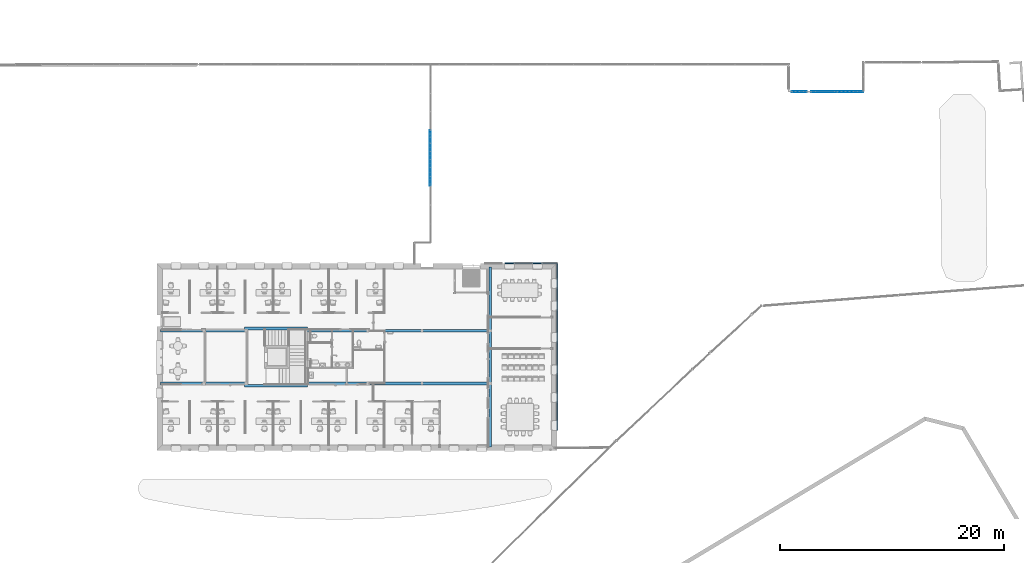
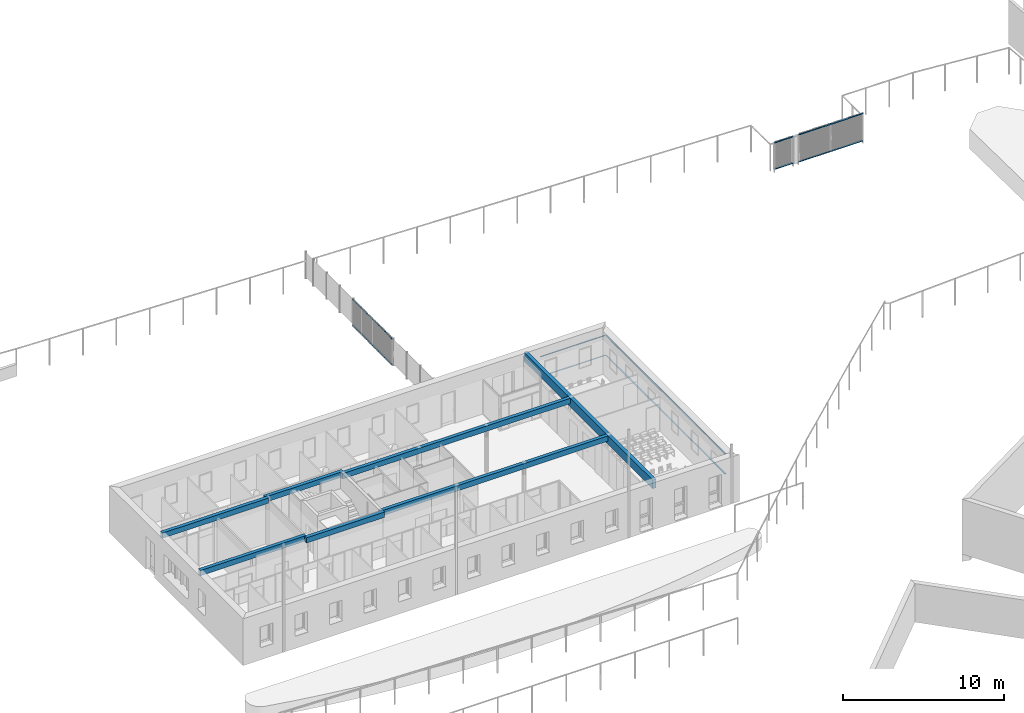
# One storey, part 8 of 91: 19 beams.
"""IFC2X3 building model written with IfcOpenShell, lengths in metres."""

import ifcopenshell
import ifcopenshell.guid

model = None  # the IFC model being written
_history = None  # IfcOwnerHistory: only IFC2X3 demands one
_inside = {}  # id of a spatial element -> (the spatial element, [elements in it])
_under = {}  # id of a project, library or spatial element -> (it, [spatial elements below it])
_declared = {}  # id of a project -> (the project, [libraries it declares])
_typed = {}  # id of a type object -> (the type object, [elements of that type])
_made_of = {}  # id of a material, layer set ... -> (it, [elements and type objects made of it])


def new_model(schema):
    """Start an empty IFC model of exactly this schema.

    Asked for "IFC4X3", IfcOpenShell would pick the latest addendum, in which some entities
    have other attributes; the version numbers below select the first issue.
    IFC2X3 requires an IfcOwnerHistory on every rooted entity: one is made here for all.
    """
    global model, _history
    if schema == "IFC4X3":
        model = ifcopenshell.file(schema_version=(4, 3, 0, 0))
    else:
        model = ifcopenshell.file(schema=schema)
    _inside.clear()
    _under.clear()
    _declared.clear()
    _typed.clear()
    _made_of.clear()
    _history = None
    if model.schema == "IFC2X3":
        org = make("IfcOrganization", Name="unknown")
        user = make(
            "IfcPersonAndOrganization",
            ThePerson=make("IfcPerson", FamilyName="unknown"),
            TheOrganization=org,
        )
        app = make(
            "IfcApplication",
            ApplicationDeveloper=org,
            Version="unknown",
            ApplicationFullName="unknown",
            ApplicationIdentifier="unknown",
        )
        _history = make(
            "IfcOwnerHistory",
            OwningUser=user,
            OwningApplication=app,
            ChangeAction="ADDED",
            CreationDate=0,
        )
    return model


def make(cls, **values):
    """One entity of the class cls with the attributes given. An attribute that is None is left unset."""
    return model.create_entity(
        cls, **{name: value for name, value in values.items() if value is not None}
    )


def entity(cls, *values):
    """Any entity or typed value of the class cls, its attributes in the order of the schema. None: left unset."""
    e = model.create_entity(cls)
    for i, value in enumerate(values):
        if value is not None:
            e[i] = value
    return e


def rooted(cls, **values):
    """An entity with a GlobalId (a new one), such as an element, a storey or a relation."""
    return make(cls, GlobalId=ifcopenshell.guid.new(), OwnerHistory=_history, **values)


def si_unit(unit_type, name, prefix=None):
    """IfcSIUnit, for example si_unit("LENGTHUNIT", "METRE", prefix="MILLI")."""
    return make("IfcSIUnit", UnitType=unit_type, Prefix=prefix, Name=name)


def converted_unit(unit_type, name, factor, base, dimensions=None, offset=None):
    """IfcConversionBasedUnit, such as the inch: factor (a typed value) times the base unit."""
    return make(
        "IfcConversionBasedUnit"
        if offset is None
        else "IfcConversionBasedUnitWithOffset",
        ConversionOffset=offset,
        Dimensions=None
        if dimensions is None
        else entity("IfcDimensionalExponents", *dimensions),
        UnitType=unit_type,
        Name=name,
        ConversionFactor=make(
            "IfcMeasureWithUnit", ValueComponent=factor, UnitComponent=base
        ),
    )


def derived_unit(unit_type, elements):
    """IfcDerivedUnit: a product of units, each with its exponent."""
    return make(
        "IfcDerivedUnit",
        Elements=[
            make("IfcDerivedUnitElement", Unit=unit, Exponent=power)
            for unit, power in elements
        ],
        UnitType=unit_type,
    )


def money_unit(currency):
    """IfcMonetaryUnit."""
    return make("IfcMonetaryUnit", Currency=currency)


def assignment(units):
    """IfcUnitAssignment: the units of a project."""
    return None if units is None else make("IfcUnitAssignment", Units=units)


def point(xyz):
    """IfcCartesianPoint."""
    return None if xyz is None else make("IfcCartesianPoint", Coordinates=xyz)


def direction(xyz):
    """IfcDirection."""
    return None if xyz is None else make("IfcDirection", DirectionRatios=xyz)


def frame(location, z_axis=None, x_axis=None):
    """IfcAxis2Placement3D, a coordinate frame: its origin and axes. An axis left out is left unset."""
    return make(
        "IfcAxis2Placement3D",
        Location=point(location),
        Axis=direction(z_axis),
        RefDirection=direction(x_axis),
    )


def frame_2d(location, x_axis=None):
    """IfcAxis2Placement2D, a coordinate frame in the plane: its origin and x axis."""
    return make(
        "IfcAxis2Placement2D", Location=point(location), RefDirection=direction(x_axis)
    )


def origin_with_axes():
    """The frame at (0, 0, 0) with the z axis (0, 0, 1) and the x axis (1, 0, 0) written out."""
    return frame((0.0, 0.0, 0.0), z_axis=(0.0, 0.0, 1.0), x_axis=(1.0, 0.0, 0.0))


def origin_2d_with_axis():
    """The frame at (0, 0) in the plane with the x axis (1, 0) written out."""
    return frame_2d((0.0, 0.0), x_axis=(1.0, 0.0))


def place(relative_to, where):
    """IfcLocalPlacement: puts the frame where relative to a parent placement (None: the world)."""
    return make(
        "IfcLocalPlacement", PlacementRelTo=relative_to, RelativePlacement=where
    )


def context(
    kind, dimensions, precision=None, world=None, true_north=None, identifier=None
):
    """IfcGeometricRepresentationContext, for example the 3D "Model" context."""
    return make(
        "IfcGeometricRepresentationContext",
        ContextIdentifier=identifier,
        ContextType=kind,
        CoordinateSpaceDimension=dimensions,
        Precision=precision,
        WorldCoordinateSystem=world,
        TrueNorth=true_north,
    )


def subcontext(parent, identifier, kind, view, scale=None):
    """IfcGeometricRepresentationSubContext, for example "Body" below "Model"."""
    return make(
        "IfcGeometricRepresentationSubContext",
        ContextIdentifier=identifier,
        ContextType=kind,
        ParentContext=parent,
        TargetScale=scale,
        TargetView=view,
    )


def project(units=None, contexts=None):
    """IfcProject with its units and contexts."""
    return rooted(
        "IfcProject",
        Name="project",
        RepresentationContexts=contexts,
        UnitsInContext=assignment(units),
    )


def spatial(cls, under=None, at=None, **own):
    """A site, building, storey or space (cls), placed at a placement, below another one or the project."""
    s = rooted(cls, ObjectPlacement=at, **own)
    if under is not None:
        _under.setdefault(under.id(), (under, []))[1].append(s)
    return s


def profile(cls, at=None, kind="AREA", **sizes):
    """A parametric profile (cls). Its sizes go by their IFC names, for example OverallWidth=200.0."""
    return make(cls, ProfileType=kind, Position=at, **sizes)


def rectangle(**sizes):
    """IfcRectangleProfileDef."""
    return profile("IfcRectangleProfileDef", **sizes)


def extrude(swept, where, along, depth):
    """IfcExtrudedAreaSolid: the profile swept, set in the frame where, extruded along a direction by depth."""
    return make(
        "IfcExtrudedAreaSolid",
        SweptArea=swept,
        Position=where,
        ExtrudedDirection=direction(along),
        Depth=depth,
    )


def shape(context_of_items, identifier, shape_type, items):
    """IfcShapeRepresentation: the items that make up one representation, for example the "Body"."""
    return make(
        "IfcShapeRepresentation",
        ContextOfItems=context_of_items,
        RepresentationIdentifier=identifier,
        RepresentationType=shape_type,
        Items=items,
    )


def material(Name=None, Category=None):
    """IfcMaterial."""
    return make("IfcMaterial", Name=Name, Category=Category)


def made_of(thing, what):
    """Note that an element or type object is made of a material, layer set ...; save() writes the relation."""
    if what is not None:
        _made_of.setdefault(what.id(), (what, []))[1].append(thing)
    return thing


def type_object(cls, material=None, **own):
    """A type object (cls), such as IfcWallType, which elements share."""
    return made_of(rooted(cls, **own), material)


def element(
    cls,
    number,
    at=None,
    inside=None,
    cuts=None,
    type_object=None,
    material=None,
    context=None,
    identifier="Body",
    shape_type=None,
    held_by="IfcProductDefinitionShape",
    body=None,
    shapes=None,
    **own,
):
    """One element of the class cls, such as IfcWall. Its Tag is "e" and its number.

    at: its placement. inside: the storey or other place that contains it. cuts: it is an
    opening in that element (IfcRelVoidsElement). A single representation is given by context,
    identifier, shape_type and body (its items); several are given by shapes. held_by: the class
    of the entity that holds the representations. save() writes the other relations.
    """
    e = rooted(cls, Tag="e%d" % number, ObjectPlacement=at, **own)
    if body is not None:
        shapes = [shape(context, identifier, shape_type, body)]
    if shapes is not None:
        e.Representation = make(held_by, Representations=shapes)
    if inside is not None:
        _inside.setdefault(inside.id(), (inside, []))[1].append(e)
    if cuts is not None:
        rooted(
            "IfcRelVoidsElement", RelatingBuildingElement=cuts, RelatedOpeningElement=e
        )
    if type_object is not None:
        _typed.setdefault(type_object.id(), (type_object, []))[1].append(e)
    return made_of(e, material)


def aggregate(whole, parts):
    """IfcRelAggregates: a whole, such as a stair, and the parts it consists of."""
    return rooted("IfcRelAggregates", RelatingObject=whole, RelatedObjects=parts)


def save(model, path):
    """Write the relations noted so far, then the file.

    IfcRelAggregates (storeys below a building ...), IfcRelContainedInSpatialStructure (elements
    in a storey), IfcRelDefinesByType, IfcRelAssociatesMaterial and IfcRelDeclares: one each for
    every whole, place, type object, material and project.
    """
    for whole, parts in _under.values():
        aggregate(whole, parts)
    for where, things in _inside.values():
        rooted(
            "IfcRelContainedInSpatialStructure",
            RelatedElements=things,
            RelatingStructure=where,
        )
    for kind, things in _typed.values():
        rooted("IfcRelDefinesByType", RelatedObjects=things, RelatingType=kind)
    for what, things in _made_of.values():
        rooted("IfcRelAssociatesMaterial", RelatedObjects=things, RelatingMaterial=what)
    for by, libraries in _declared.values():
        rooted("IfcRelDeclares", RelatingContext=by, RelatedDefinitions=libraries)
    model.write(path)


model = new_model("IFC2X3")

# Units and contexts
model_context = context("Model", 3, precision=1e-05, world=origin_with_axes(), true_north=direction((0.0, 1.0)))
body_context = subcontext(model_context, "Body", "Model", "MODEL_VIEW")
ifc_project = project(units=[si_unit("LENGTHUNIT", "METRE"), si_unit("AREAUNIT", "SQUARE_METRE"), si_unit("VOLUMEUNIT", "CUBIC_METRE"), converted_unit("PLANEANGLEUNIT", "DEGREE", entity("IfcPlaneAngleMeasure", 0.0174532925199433), si_unit("PLANEANGLEUNIT", "RADIAN"), dimensions=[0, 0, 0, 0, 0, 0, 0]), money_unit("EUR"), converted_unit("TIMEUNIT", "Year", entity("IfcTimeMeasure", 31557600.0), si_unit("TIMEUNIT", "SECOND"), dimensions=[0, 0, 1, 0, 0, 0, 0]), si_unit("MASSUNIT", "GRAM", prefix="KILO"), si_unit("THERMODYNAMICTEMPERATUREUNIT", "DEGREE_CELSIUS"), si_unit("LUMINOUSINTENSITYUNIT", "LUMEN"), si_unit("ENERGYUNIT", "JOULE", prefix="MEGA"), derived_unit("THERMALCONDUCTANCEUNIT", [(si_unit("POWERUNIT", "WATT"), 1), (si_unit("LENGTHUNIT", "METRE"), -1), (si_unit("THERMODYNAMICTEMPERATUREUNIT", "KELVIN"), -1)]), derived_unit("SPECIFICHEATCAPACITYUNIT", [(si_unit("ENERGYUNIT", "JOULE"), 1), (si_unit("MASSUNIT", "GRAM", prefix="KILO"), -1), (si_unit("THERMODYNAMICTEMPERATUREUNIT", "KELVIN"), -1)]), derived_unit("MASSDENSITYUNIT", [(si_unit("MASSUNIT", "GRAM", prefix="KILO"), 1), (si_unit("VOLUMEUNIT", "CUBIC_METRE"), -1)])], contexts=[model_context])

# Site, building, storey
site_placement = place(None, origin_with_axes())
site = spatial("IfcSite", under=ifc_project, at=site_placement, Name="Site", CompositionType="ELEMENT")
building_placement = place(site_placement, origin_with_axes())
building = spatial("IfcBuilding", under=site, at=building_placement, Name="Bâtiment", CompositionType="ELEMENT")
storey_placement = place(building_placement, origin_with_axes())
storey = spatial("IfcBuildingStorey", under=building, at=storey_placement, Name="RDC", CompositionType="ELEMENT", Elevation=0.0)

# Beams
ifc_material_1 = material(Name="Béton")
beam_type_1 = type_object("IfcBeamType", Name="Béton 250 x 400", PredefinedType="NOTDEFINED")
beam_1_placement = place(storey_placement, frame((24.93199368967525, -21.45756464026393, 3.36), z_axis=(0.0, 0.0, 1.0), x_axis=(0.0, -1.0, 0.0)))
element("IfcBeam", 1, at=beam_1_placement, inside=storey, type_object=beam_type_1, material=ifc_material_1, Name="PoBA-006", context=body_context, shape_type="SweptSolid", body=[
    extrude(rectangle(XDim=0.4, YDim=0.25, at=origin_2d_with_axis()), frame((0.0, 0.0, 0.0), z_axis=(0.0, 1.0, 0.0), x_axis=(0.0, 0.0, 1.0)), (0.0, 0.0, 1.0), 7.621014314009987),
])
beam_2_placement = place(storey_placement, frame((24.93200011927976, -16.7575645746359, 3.36), z_axis=(0.0, 0.0, 1.0), x_axis=(0.0, -1.0, 0.0)))
element("IfcBeam", 2, at=beam_2_placement, inside=storey, type_object=beam_type_1, material=ifc_material_1, Name="PoBA-006", context=body_context, shape_type="SweptSolid", body=[
    extrude(rectangle(XDim=0.4, YDim=0.25, at=origin_2d_with_axis()), frame((0.0, 0.0, 0.0), z_axis=(0.0, 1.0, 0.0), x_axis=(0.0, 0.0, 1.0)), (0.0, 0.0, 1.0), 7.621007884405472),
])
beam_3_placement = place(storey_placement, frame((32.42800800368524, -16.55356458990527, 3.34), z_axis=(0.0, 0.0, 1.0), x_axis=(0.0, -1.0, 0.0)))
element("IfcBeam", 3, at=beam_3_placement, inside=storey, type_object=beam_type_1, material=ifc_material_1, Name="PoBA-006", context=body_context, shape_type="SweptSolid", body=[
    extrude(rectangle(XDim=0.4, YDim=0.25, at=origin_2d_with_axis()), frame((0.0, 0.0, 0.0), z_axis=(0.0, 1.0, 0.0), x_axis=(0.0, 0.0, 1.0)), (0.0, 0.0, 1.0), 5.620000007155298),
])
beam_4_placement = place(storey_placement, frame((37.85300801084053, -16.75756457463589, 3.34), z_axis=(0.0, 0.0, 1.0), x_axis=(0.0, -1.0, 0.0)))
element("IfcBeam", 4, at=beam_4_placement, inside=storey, type_object=beam_type_1, material=ifc_material_1, Name="PoBA-006", context=body_context, shape_type="SweptSolid", body=[
    extrude(rectangle(XDim=0.4, YDim=0.25, at=origin_2d_with_axis()), frame((0.0, 0.0, 0.0), z_axis=(0.0, 1.0, 0.0), x_axis=(0.0, 0.0, 1.0)), (0.0, 0.0, 1.0), 16.49199198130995),
])
beam_5_placement = place(storey_placement, frame((32.42800800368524, -21.66156187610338, 3.34), z_axis=(0.0, 0.0, 1.0), x_axis=(0.0, -1.0, 0.0)))
element("IfcBeam", 5, at=beam_5_placement, inside=storey, type_object=beam_type_1, material=ifc_material_1, Name="PoBA-006", context=body_context, shape_type="SweptSolid", body=[
    extrude(rectangle(XDim=0.4, YDim=0.25, at=origin_2d_with_axis()), frame((0.0, 0.0, 0.0), z_axis=(0.0, 1.0, 0.0), x_axis=(0.0, 0.0, 1.0)), (0.0, 0.0, 1.0), 5.620000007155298),
])
beam_6_placement = place(storey_placement, frame((37.85300801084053, -21.45756464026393, 3.34), z_axis=(0.0, 0.0, 1.0), x_axis=(0.0, -1.0, 0.0)))
element("IfcBeam", 6, at=beam_6_placement, inside=storey, type_object=beam_type_1, material=ifc_material_1, Name="PoBA-006", context=body_context, shape_type="SweptSolid", body=[
    extrude(rectangle(XDim=0.4, YDim=0.25, at=origin_2d_with_axis()), frame((0.0, 0.0, 0.0), z_axis=(0.0, 1.0, 0.0), x_axis=(0.0, 0.0, 1.0)), (0.0, 0.0, 1.0), 16.491991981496),
])
ifc_material_2 = material(Name="Aluminium")
beam_type_2 = type_object("IfcBeamType", Name="Aluminium 100 x 3", PredefinedType="NOTDEFINED")
beam_7_placement = place(storey_placement, frame((55.61607972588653, -10.79973634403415, 2.501311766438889), z_axis=(0.0, 0.0, 1.0), x_axis=(0.0, -1.0, 0.0)))
element("IfcBeam", 7, at=beam_7_placement, inside=storey, type_object=beam_type_2, material=ifc_material_2, Name="PoBA-002", context=body_context, shape_type="SweptSolid", body=[
    extrude(rectangle(XDim=0.003, YDim=0.1, at=frame_2d((0.0, -0.05), x_axis=(1.0, 0.0))), frame((0.0, 0.0, 0.0), z_axis=(0.0, 1.0, 0.0), x_axis=(0.0, 0.0, 1.0)), (0.0, 0.0, 1.0), 4.641920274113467),
])
beam_8_placement = place(storey_placement, frame((60.258, -10.79973634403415, 2.4985), z_axis=(0.0, 0.0, 1.0), x_axis=(-1.0, 0.0, 0.0)))
element("IfcBeam", 8, at=beam_8_placement, inside=storey, type_object=beam_type_2, material=ifc_material_2, Name="PoBA-002", context=body_context, shape_type="SweptSolid", body=[
    extrude(rectangle(XDim=0.003, YDim=0.1, at=frame_2d((0.0, -0.05), x_axis=(1.0, 0.0))), frame((0.0, 0.0, 0.0), z_axis=(0.0, 1.0, 0.0), x_axis=(0.0, 0.0, 1.0)), (0.0, 0.0, 1.0), 14.85248620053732),
])
beam_9_placement = place(storey_placement, frame((55.61607972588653, -10.79973634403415, 0.9913117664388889), z_axis=(0.0, 0.0, 1.0), x_axis=(0.0, -1.0, 0.0)))
element("IfcBeam", 9, at=beam_9_placement, inside=storey, type_object=beam_type_2, material=ifc_material_2, Name="PoBA-002", context=body_context, shape_type="SweptSolid", body=[
    extrude(rectangle(XDim=0.003, YDim=0.1, at=frame_2d((0.0, -0.05), x_axis=(1.0, 0.0))), frame((0.0, 0.0, 0.0), z_axis=(0.0, 1.0, 0.0), x_axis=(0.0, 0.0, 1.0)), (0.0, 0.0, 1.0), 4.641920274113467),
])
beam_10_placement = place(storey_placement, frame((60.258, -10.79973634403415, 0.9914999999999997), z_axis=(0.0, 0.0, 1.0), x_axis=(-1.0, 0.0, 0.0)))
element("IfcBeam", 10, at=beam_10_placement, inside=storey, type_object=beam_type_2, material=ifc_material_2, Name="PoBA-002", context=body_context, shape_type="SweptSolid", body=[
    extrude(rectangle(XDim=0.003, YDim=0.1, at=frame_2d((0.0, -0.05), x_axis=(1.0, 0.0))), frame((0.0, 0.0, 0.0), z_axis=(0.0, 1.0, 0.0), x_axis=(0.0, 0.0, 1.0)), (0.0, 0.0, 1.0), 14.85248620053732),
])
beam_type_3 = type_object("IfcBeamType", Name="Béton 250 x 665", PredefinedType="NOTDEFINED")
beam_11_placement = place(storey_placement, frame((54.34499999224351, -11.08956227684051, 3.207499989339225), z_axis=(0.0, 0.0, 1.0), x_axis=(-1.0, 0.0, 0.0)))
element("IfcBeam", 11, at=beam_11_placement, inside=storey, type_object=beam_type_3, material=ifc_material_1, Name="PoBA-006", context=body_context, shape_type="SweptSolid", body=[
    extrude(rectangle(XDim=0.6650000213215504, YDim=0.2500000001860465, at=origin_2d_with_axis()), frame((0.0, 0.0, 0.0), z_axis=(0.0, 1.0, 0.0), x_axis=(0.0, 0.0, 1.0)), (0.0, 0.0, 1.0), 16.03599988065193),
])
ifc_material_3 = material(Name="Métal - Acier")
beam_type_4 = type_object("IfcBeamType", Name="Métal - Acier 80 x 40", PredefinedType="NOTDEFINED")
beam_12_placement = place(storey_placement, frame((85.28533292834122, 4.572697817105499, -1.575472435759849), z_axis=(0.0, 0.0, 1.0), x_axis=(0.0, -1.0, 0.0)))
element("IfcBeam", 12, at=beam_12_placement, inside=storey, type_object=beam_type_4, material=ifc_material_3, Name="PANNE MULTIBEAM", context=body_context, shape_type="SweptSolid", body=[
    extrude(rectangle(XDim=0.04, YDim=0.08, at=origin_2d_with_axis()), frame((0.0, 0.0, 0.0), z_axis=(0.0, 1.0, 0.0), x_axis=(0.0, 0.0, 1.0)), (0.0, 0.0, 1.0), 2.288373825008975),
])
beam_13_placement = place(storey_placement, frame((85.34583085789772, 4.572697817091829, 0.4800000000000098), z_axis=(0.0, 0.0, 1.0), x_axis=(0.0, 1.0, 0.0)))
element("IfcBeam", 13, at=beam_13_placement, inside=storey, type_object=beam_type_4, material=ifc_material_3, Name="PANNE MULTIBEAM", context=body_context, shape_type="SweptSolid", body=[
    extrude(rectangle(XDim=0.04, YDim=0.08, at=origin_2d_with_axis()), frame((0.0, 0.0, 0.0), z_axis=(0.0, 1.0, 0.0), x_axis=(0.0, 0.0, 1.0)), (0.0, 0.0, 1.0), 2.348373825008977),
])
beam_14_placement = place(storey_placement, frame((85.28533292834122, 4.572697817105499, -1.575472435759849), z_axis=(0.0, 0.0, 1.0), x_axis=(0.0, 1.0, 0.0)))
element("IfcBeam", 14, at=beam_14_placement, inside=storey, type_object=beam_type_4, material=ifc_material_3, Name="PANNE MULTIBEAM", context=body_context, shape_type="SweptSolid", body=[
    extrude(rectangle(XDim=0.04, YDim=0.08, at=origin_2d_with_axis()), frame((0.0, 0.0, 0.0), z_axis=(0.0, 1.0, 0.0), x_axis=(0.0, 0.0, 1.0)), (0.0, 0.0, 1.0), 2.288373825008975),
])
beam_15_placement = place(storey_placement, frame((85.34583085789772, 4.572697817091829, 0.4800000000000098), z_axis=(0.0, 0.0, 1.0), x_axis=(0.0, -1.0, 0.0)))
element("IfcBeam", 15, at=beam_15_placement, inside=storey, type_object=beam_type_4, material=ifc_material_3, Name="PANNE MULTIBEAM", context=body_context, shape_type="SweptSolid", body=[
    extrude(rectangle(XDim=0.04, YDim=0.08, at=origin_2d_with_axis()), frame((0.0, 0.0, 0.0), z_axis=(0.0, 1.0, 0.0), x_axis=(0.0, 0.0, 1.0)), (0.0, 0.0, 1.0), 2.287875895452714),
])
beam_16_placement = place(storey_placement, frame((81.29636843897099, 4.572697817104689, -1.519957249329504), z_axis=(0.0, 0.0, 1.0), x_axis=(0.0, -1.0, 0.0)))
element("IfcBeam", 16, at=beam_16_placement, inside=storey, type_object=beam_type_4, material=ifc_material_3, Name="PANNE MULTIBEAM", context=body_context, shape_type="SweptSolid", body=[
    extrude(rectangle(XDim=0.04, YDim=0.08, at=origin_2d_with_axis()), frame((0.0, 0.0, 0.0), z_axis=(0.0, 1.0, 0.0), x_axis=(0.0, 0.0, 1.0)), (0.0, 0.0, 1.0), 1.279332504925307),
])
beam_17_placement = place(storey_placement, frame((82.59570094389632, 4.572697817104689, 0.4800000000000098), z_axis=(0.0, 0.0, 1.0), x_axis=(0.0, 1.0, 0.0)))
element("IfcBeam", 17, at=beam_17_placement, inside=storey, type_object=beam_type_4, material=ifc_material_3, Name="PANNE MULTIBEAM", context=body_context, shape_type="SweptSolid", body=[
    extrude(rectangle(XDim=0.04, YDim=0.08, at=origin_2d_with_axis()), frame((0.0, 0.0, 0.0), z_axis=(0.0, 1.0, 0.0), x_axis=(0.0, 0.0, 1.0)), (0.0, 0.0, 1.0), 1.339332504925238),
])
beam_18_placement = place(storey_placement, frame((48.97569491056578, 1.114200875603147, 0.02000000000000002), z_axis=(0.0, 0.0, 1.0), x_axis=(-1.0, 0.0, 0.0)))
element("IfcBeam", 18, at=beam_18_placement, inside=storey, type_object=beam_type_4, material=ifc_material_3, Name="PANNE MULTIBEAM", context=body_context, shape_type="SweptSolid", body=[
    extrude(rectangle(XDim=0.04, YDim=0.08, at=origin_2d_with_axis()), frame((0.0, 0.0, 0.0), z_axis=(0.0, 1.0, 0.0), x_axis=(0.0, 0.0, 1.0)), (0.0, 0.0, 1.0), 4.940662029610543),
])
beam_type_5 = type_object("IfcBeamType", Name="Métal - Acier 80 x 30", PredefinedType="NOTDEFINED")
beam_19_placement = place(storey_placement, frame((48.97569491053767, 1.114036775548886, 1.985), z_axis=(0.0, 0.0, 1.0), x_axis=(-1.0, 0.0, 0.0)))
element("IfcBeam", 19, at=beam_19_placement, inside=storey, type_object=beam_type_5, material=ifc_material_3, Name="PANNE MULTIBEAM", context=body_context, shape_type="SweptSolid", body=[
    extrude(rectangle(XDim=0.03, YDim=0.08, at=origin_2d_with_axis()), frame((0.0, 0.0, 0.0), z_axis=(0.0, 1.0, 0.0), x_axis=(0.0, 0.0, 1.0)), (0.0, 0.0, 1.0), 4.960000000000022),
])

save(model, "model.ifc")
